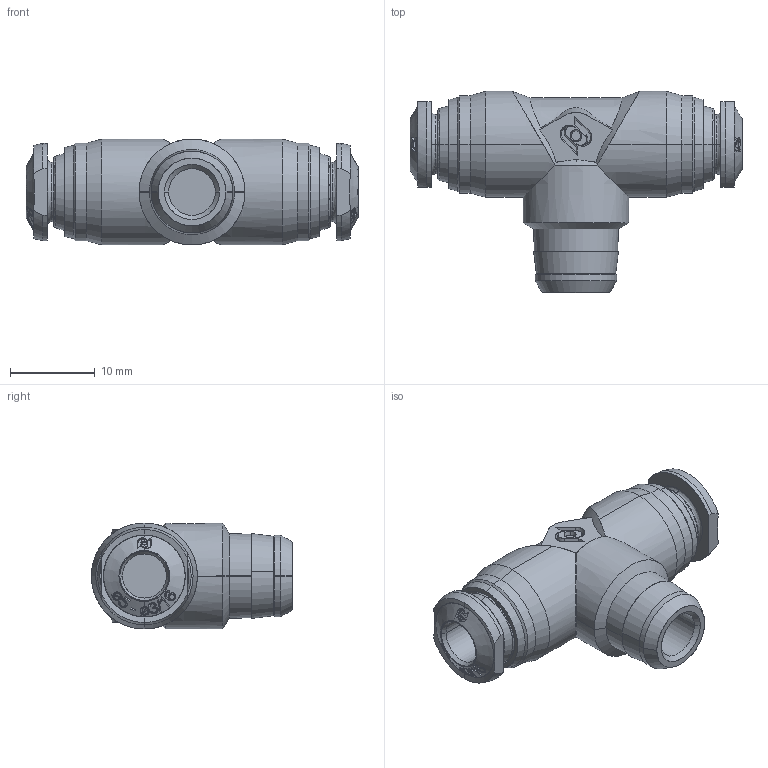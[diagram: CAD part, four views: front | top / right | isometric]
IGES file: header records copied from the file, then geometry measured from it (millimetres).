
Start section: SolidWorks IGES file using analytic representation for surfaces
Global section: file name: K:\Disegni Esecutivi\Serie 50000\ASSIEMI\50200\ASSIEMI_PIENI_50200\5020000010.IGS; native system: SolidWorks 2007; preprocessor: SolidWorks 2007; author: cad02; date: 071011.103340; units: millimetre
Bounding box: 39.2 x 23.75 x 12.5 mm (x, y, z)
Surface area: 2966.9 mm2 (no closed solid volume)
Topology: 0 solids, 0 shells, 496 faces, 5629 edges, 5625 vertices
Faces by surface type: bspline 332, revolution 164
